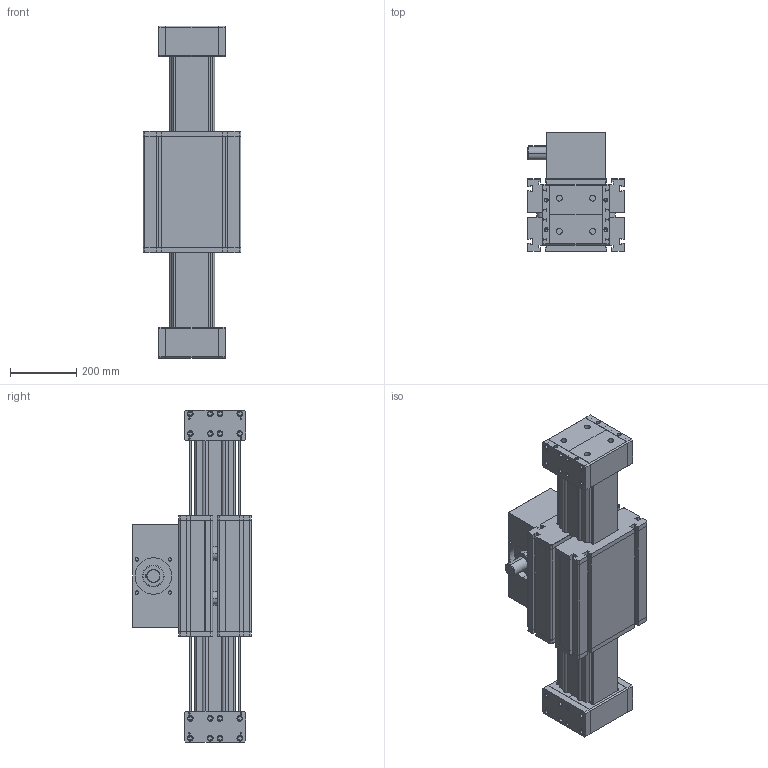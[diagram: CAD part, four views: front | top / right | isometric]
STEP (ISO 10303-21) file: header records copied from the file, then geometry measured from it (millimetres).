
FILE_DESCRIPTION (( 'STEP AP214' ), '1' );
FILE_NAME ('ELFZ125.STEP', '2023-09-11T08:30:41', ( '' ), ( '' ), 'SwSTEP 2.0', 'SolidWorks 2020', '' );
FILE_SCHEMA (( 'AUTOMOTIVE_DESIGN' ));
Length unit declared in the file: millimetre
Products named in the file (5): timing belt reverse unit^ELFZ125; ELFZ125; timing belt reverse unit carriage^ELFZ125_shaft pos. 2; profile^ELFZ125_1; carriage^ELFZ125_carriage 0
Assembly tree (5 placements, depth 2):
  ELFZ125
    profile^ELFZ125_1
    carriage^ELFZ125_carriage 0
    timing belt reverse unit carriage^ELFZ125_shaft pos. 2
    timing belt reverse unit^ELFZ125  x2
Bounding box: 295 x 357 x 1000 mm (x, y, z)
Volume: 41564057.6 mm3; surface area: 2582125.8 mm2
Topology: 12 solids, 12 shells, 1362 faces, 3394 edges, 2154 vertices
Faces by surface type: plane 844, cylinder 340, cone 102, torus 72, sphere 4
Entity records: 32271 total; most frequent: CARTESIAN_POINT 5150, DIRECTION 4938, ORIENTED_EDGE 4896, EDGE_CURVE 2448, LINE 1854, VECTOR 1854, VERTEX_POINT 1586, AXIS2_PLACEMENT_3D 1542
